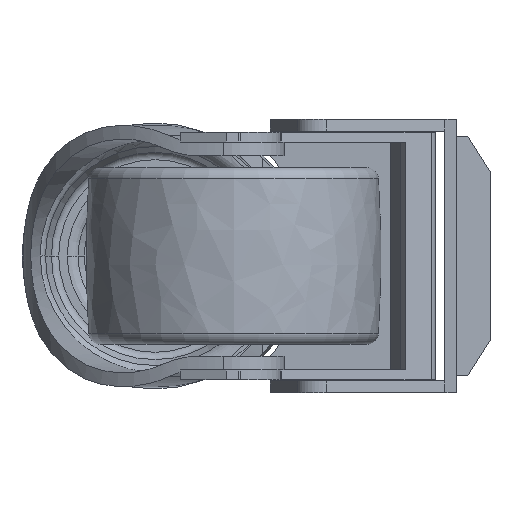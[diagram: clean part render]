
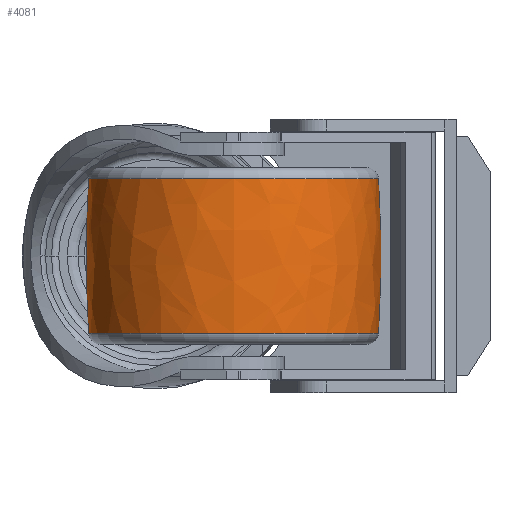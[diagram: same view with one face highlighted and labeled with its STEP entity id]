
A CAD part, front view. The second image highlights one B-rep face of the part: STEP entity #4081.
In plain terms, the highlighted free-form (B-spline) face has degree [3, 3] with [7, 4] control points.
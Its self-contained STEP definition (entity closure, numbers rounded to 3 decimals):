
#3887=CARTESIAN_POINT('',(0.,-262.5,
0.));
#3888=DIRECTION('',(0.,0.,1.));
#3889=DIRECTION('',(0.066,0.998,0.));
#3890=AXIS2_PLACEMENT_3D('',#3887,#3888,#3889);
#3892=CARTESIAN_POINT('',(0.,262.5,
0.));
#3893=DIRECTION('',(0.,0.,-1.));
#3894=DIRECTION('',(0.066,-0.998,0.));
#3895=AXIS2_PLACEMENT_3D('',#3892,#3893,#3894);
#3897=CARTESIAN_POINT('',(19.697,0.,0.));
#3898=DIRECTION('',(-1.,0.,0.));
#3899=DIRECTION('',(0.,1.,0.));
#3900=AXIS2_PLACEMENT_3D('',#3897,#3898,#3899);
#3912=CARTESIAN_POINT('',(-19.697,0.,0.));
#3913=DIRECTION('',(-1.,0.,0.));
#3914=DIRECTION('',(0.,1.,0.));
#3915=AXIS2_PLACEMENT_3D('',#3912,#3913,#3914);
#3980=CARTESIAN_POINT('',(19.697,36.853,0.));
#3981=CARTESIAN_POINT('',(-19.697,36.853,0.));
#3982=VERTEX_POINT('',#3980);
#3983=VERTEX_POINT('',#3981);
#3988=CARTESIAN_POINT('',(19.697,-36.853,0.));
#3989=CARTESIAN_POINT('',(-19.697,-36.853,0.));
#3990=VERTEX_POINT('',#3988);
#3991=VERTEX_POINT('',#3989);
#4044=CARTESIAN_POINT('',(-20.484,-36.727,
2.311));
#4045=CARTESIAN_POINT('',(-6.839,-37.659,
2.369));
#4046=CARTESIAN_POINT('',(6.839,-37.659,2.369));
#4047=CARTESIAN_POINT('',(20.484,-36.727,2.311));
#4048=CARTESIAN_POINT('',(-20.484,-38.149,
-20.291));
#4049=CARTESIAN_POINT('',(-6.839,-39.117,
-20.806));
#4050=CARTESIAN_POINT('',(6.839,-39.117,
-20.806));
#4051=CARTESIAN_POINT('',(20.484,-38.149,
-20.291));
#4052=CARTESIAN_POINT('',(-20.484,-22.647,
-36.8));
#4053=CARTESIAN_POINT('',(-6.839,-23.221,
-37.734));
#4054=CARTESIAN_POINT('',(6.839,-23.221,
-37.734));
#4055=CARTESIAN_POINT('',(20.484,-22.647,
-36.8));
#4056=CARTESIAN_POINT('',(-20.484,0.,
-36.8));
#4057=CARTESIAN_POINT('',(-6.839,0.,-37.734));
#4058=CARTESIAN_POINT('',(6.839,0.,-37.734));
#4059=CARTESIAN_POINT('',(20.484,0.,-36.8));
#4060=CARTESIAN_POINT('',(-20.484,22.647,
-36.8));
#4061=CARTESIAN_POINT('',(-6.839,23.221,
-37.734));
#4062=CARTESIAN_POINT('',(6.839,23.221,-37.734));
#4063=CARTESIAN_POINT('',(20.484,22.647,-36.8));
#4064=CARTESIAN_POINT('',(-20.484,38.149,
-20.291));
#4065=CARTESIAN_POINT('',(-6.839,39.117,
-20.806));
#4066=CARTESIAN_POINT('',(6.839,39.117,-20.806));
#4067=CARTESIAN_POINT('',(20.484,38.149,-20.291));
#4068=CARTESIAN_POINT('',(-20.484,36.727,2.311));
#4069=CARTESIAN_POINT('',(-6.839,37.659,2.369));
#4070=CARTESIAN_POINT('',(6.839,37.659,2.369));
#4071=CARTESIAN_POINT('',(20.484,36.727,2.311));
#4072=(BOUNDED_SURFACE()B_SPLINE_SURFACE(3,3,((#4044,#4045,#4046,#4047),(#4048,
#4049,#4050,#4051),(#4052,#4053,#4054,#4055),(#4056,#4057,#4058,#4059),(#4060,
#4061,#4062,#4063),(#4064,#4065,#4066,#4067),(#4068,#4069,#4070,#4071)),
.UNSPECIFIED.,.F.,.F.,.F.)B_SPLINE_SURFACE_WITH_KNOTS((4,3,4),(4,4),(0.,1.,
2.),(0.,1.),.UNSPECIFIED.)GEOMETRIC_REPRESENTATION_ITEM()RATIONAL_B_SPLINE_SURFACE(((1.189,1.187,1.187,1.189),(
0.939,0.937,0.937,0.939),(
0.939,0.937,0.937,0.939),(
1.189,1.187,1.187,1.189),(
0.939,0.937,0.937,0.939),(
0.939,0.937,0.937,0.939),(
1.189,1.187,1.187,1.189)))REPRESENTATION_ITEM('')SURFACE());
#4073=ORIENTED_EDGE('',*,*,#4033,.T.);
#4075=ORIENTED_EDGE('',*,*,#4074,.T.);
#4076=ORIENTED_EDGE('',*,*,#4037,.F.);
#4078=ORIENTED_EDGE('',*,*,#4077,.F.);
#4079=EDGE_LOOP('',(#4073,#4075,#4076,#4078));
#4080=FACE_OUTER_BOUND('',#4079,.F.);
#3891=CIRCLE('',#3890,300.);
#3896=CIRCLE('',#3895,300.);
#3901=CIRCLE('',#3900,36.853);
#3916=CIRCLE('',#3915,36.853);
#4033=EDGE_CURVE('',#3982,#3983,#3891,.T.);
#4037=EDGE_CURVE('',#3990,#3991,#3896,.T.);
#4074=EDGE_CURVE('',#3983,#3991,#3916,.T.);
#4077=EDGE_CURVE('',#3982,#3990,#3901,.T.);
#4081=ADVANCED_FACE('',(#4080),#4072,.T.);
